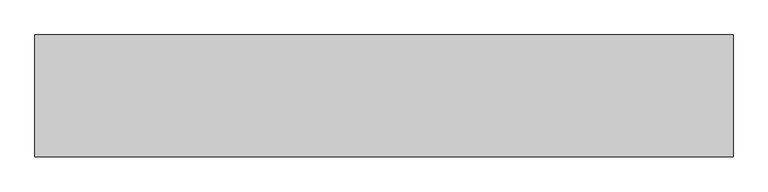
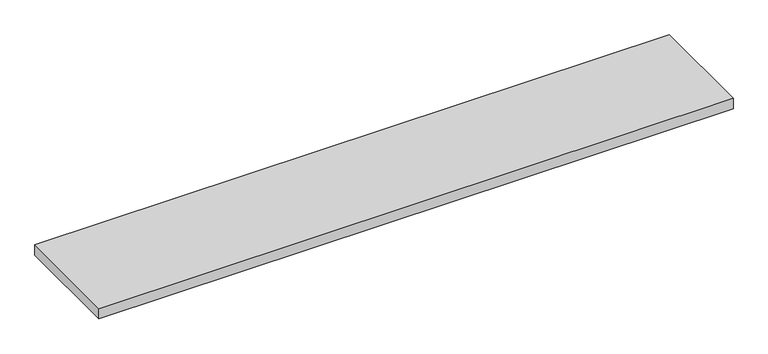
"""IFC4 building model written with IfcOpenShell, lengths in millimetres: proxy geometry, Vita_Решетка : РАП_Алюминиевая продольная."""

from ifc_helpers import new_model, si_unit, frame, origin, place, context, project, spatial, polyline, outline, extrude, source, transform, mapped, element, save


def mechanical_equipment_49690355(model_context):
    return source(origin(), model_context, "Body", "SweptSolid", [
        extrude(outline(polyline([(-599.0, -112.8), (599.0, -112.8), (599.0, -322.2), (-599.0, -322.2), (-599.0, -112.8)])), frame((0.0, 0.0, 159.83), z_axis=(0.0, 0.0, 1.0), x_axis=(1.0, 0.0, 0.0)), (0.0, 0.0, 1.0), 20.17),
    ])


if __name__ == "__main__":
    model = new_model("IFC4")
    model_context = context("Model", 3, world=origin())
    ifc_project = project(units=[si_unit("LENGTHUNIT", "METRE", prefix="MILLI")], contexts=[model_context])
    site = spatial("IfcSite", under=ifc_project)
    building = spatial("IfcBuilding", under=site)
    placement = place(None, origin())
    mechanical_equipment_shape = mechanical_equipment_49690355(model_context)
    element("IfcBuildingElementProxy", 1, Name="Vita_Решетка : РАП_Алюминиевая продольная", ObjectType="Vita_Решетка : РАП_Алюминиевая продольная", at=placement, inside=building, context=model_context, shape_type="MappedRepresentation", body=[
        mapped(mechanical_equipment_shape, transform((0.0, 0.0, 0.0), x_axis=(1.0, 0.0, 0.0), y_axis=(0.0, 1.0, 0.0), z_axis=(0.0, 0.0, 1.0))),
    ])
    save(model, "model.ifc")
